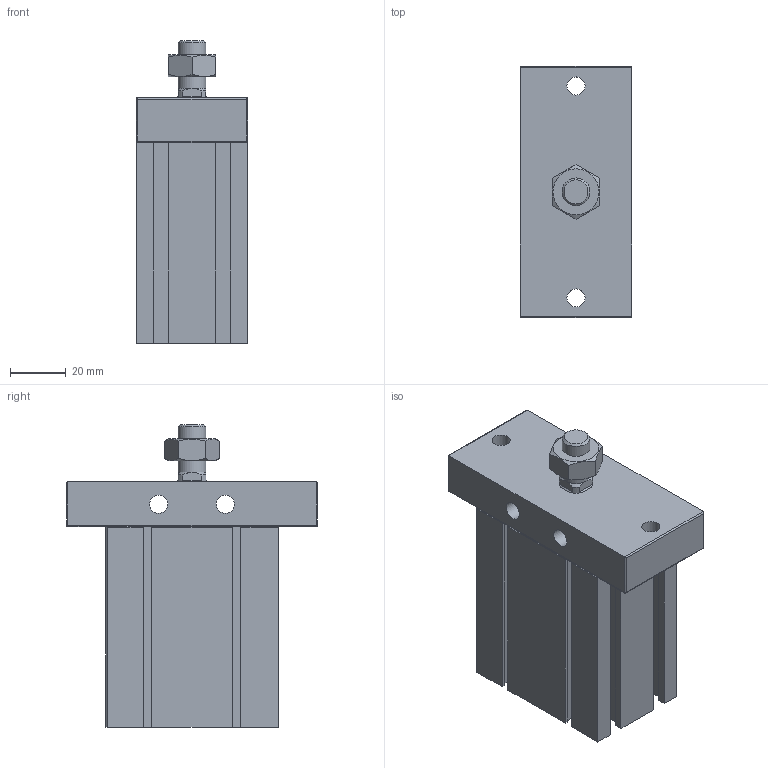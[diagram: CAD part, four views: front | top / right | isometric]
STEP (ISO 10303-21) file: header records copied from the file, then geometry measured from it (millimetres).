
FILE_DESCRIPTION((''),'2;1');
FILE_NAME('J:\3D電子目錄\氣缸\ND\ND\ND32-FBS\ND32x30-FBS.stp','2008-03-13T10:11:12',('66-2f-008'),(''),'Autodesk Inventor 11','Autodesk Inventor 11','');
FILE_SCHEMA(('AUTOMOTIVE_DESIGN { 1 0 10303 214 1 1 1 1 }'));
Length unit declared in the file: millimetre
Products named in the file (1): ND32-FBS
Bounding box: 40 x 90 x 108.5 mm (x, y, z)
Volume: 213874.6 mm3; surface area: 39214.2 mm2
Topology: 2 solids, 2 shells, 154 faces, 393 edges, 252 vertices
Faces by surface type: plane 99, cylinder 23, cone 15, bspline 14, sphere 2, torus 1
Full cylindrical faces by diameter (mm): 2.2 x2, 6.5 x2, 10 x2, 23 x1, 34 x1, 36 x1
Entity records: 4540 total; most frequent: CARTESIAN_POINT 979, ORIENTED_EDGE 710, DIRECTION 702, EDGE_CURVE 355, VECTOR 250, LINE 250, VERTEX_POINT 247, AXIS2_PLACEMENT_3D 226
